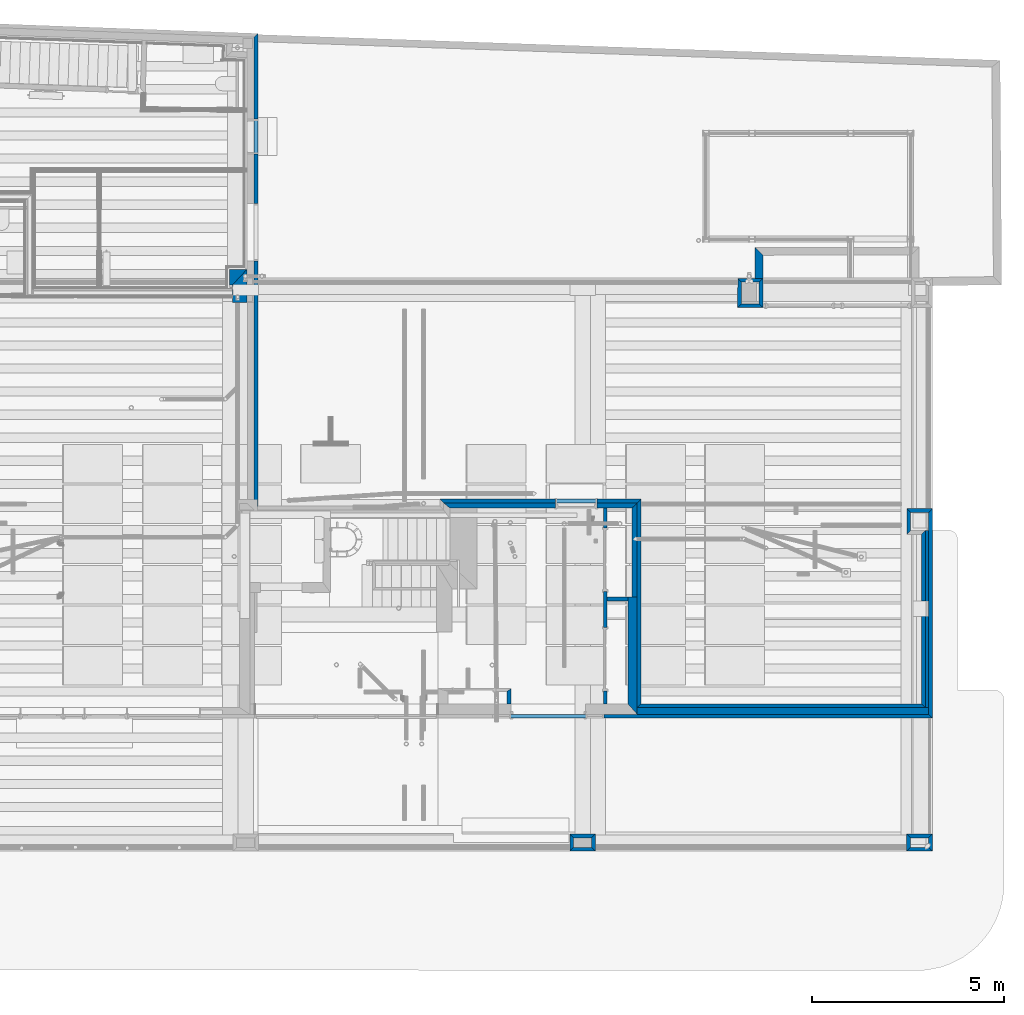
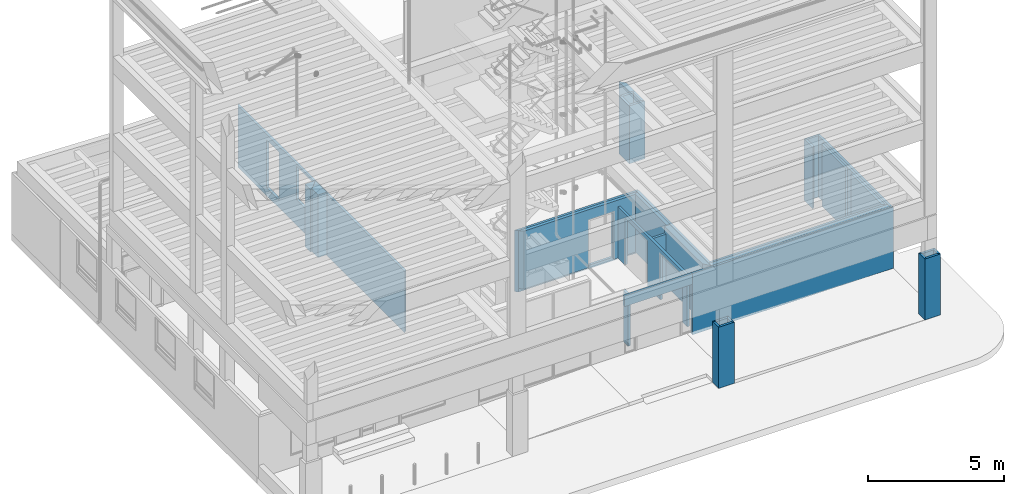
# One storey, part 8 of 106: 34 walls, 6 openings.
"""IFC2X3 building model written with IfcOpenShell, lengths in metres."""

from ifc_helpers import new_model, entity, si_unit, converted_unit, derived_unit, money_unit, direction, frame, frame_2d, origin_with_axes, place, context, subcontext, project, spatial, polyline, rectangle, outline, extrude, faceted_brep, material, layer, layer_set, layer_usage, type_object, element, save


model = new_model("IFC2X3")

# Units and contexts
model_context = context("Model", 3, precision=1e-05, world=origin_with_axes(), true_north=direction((0.0, 1.0)))
body_context = subcontext(model_context, "Body", "Model", "MODEL_VIEW", scale=1.0)
ifc_project = project(units=[si_unit("LENGTHUNIT", "METRE"), si_unit("AREAUNIT", "SQUARE_METRE"), si_unit("VOLUMEUNIT", "CUBIC_METRE"), si_unit("ABSORBEDDOSEUNIT", "GRAY"), si_unit("AMOUNTOFSUBSTANCEUNIT", "MOLE"), si_unit("DOSEEQUIVALENTUNIT", "SIEVERT"), si_unit("ELECTRICCAPACITANCEUNIT", "FARAD"), si_unit("ELECTRICCHARGEUNIT", "COULOMB"), si_unit("ELECTRICCONDUCTANCEUNIT", "SIEMENS"), si_unit("ELECTRICCURRENTUNIT", "AMPERE"), si_unit("ELECTRICRESISTANCEUNIT", "OHM"), si_unit("ELECTRICVOLTAGEUNIT", "VOLT"), si_unit("ENERGYUNIT", "JOULE"), si_unit("FORCEUNIT", "NEWTON"), si_unit("FREQUENCYUNIT", "HERTZ"), si_unit("ILLUMINANCEUNIT", "LUX"), si_unit("INDUCTANCEUNIT", "HENRY"), si_unit("LUMINOUSFLUXUNIT", "LUMEN"), si_unit("LUMINOUSINTENSITYUNIT", "CANDELA"), si_unit("MAGNETICFLUXDENSITYUNIT", "TESLA"), si_unit("MAGNETICFLUXUNIT", "WEBER"), si_unit("MASSUNIT", "GRAM"), converted_unit("PLANEANGLEUNIT", "degree", entity("IfcReal", 0.0174532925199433), si_unit("PLANEANGLEUNIT", "RADIAN"), dimensions=[0, 0, 0, 0, 0, 0, 0]), si_unit("POWERUNIT", "WATT"), si_unit("PRESSUREUNIT", "PASCAL"), si_unit("RADIOACTIVITYUNIT", "BECQUEREL"), si_unit("SOLIDANGLEUNIT", "STERADIAN"), si_unit("THERMODYNAMICTEMPERATUREUNIT", "KELVIN"), si_unit("TIMEUNIT", "SECOND"), derived_unit("ACCELERATIONUNIT", [(si_unit("LENGTHUNIT", "METRE"), 1), (si_unit("TIMEUNIT", "SECOND"), -2)]), derived_unit("ANGULARVELOCITYUNIT", [(converted_unit("PLANEANGLEUNIT", "degree", entity("IfcReal", 0.0174532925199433), si_unit("PLANEANGLEUNIT", "RADIAN"), dimensions=[0, 0, 0, 0, 0, 0, 0]), 1), (si_unit("TIMEUNIT", "SECOND"), -1)]), derived_unit("CURVATUREUNIT", [(converted_unit("PLANEANGLEUNIT", "degree", entity("IfcReal", 0.0174532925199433), si_unit("PLANEANGLEUNIT", "RADIAN"), dimensions=[0, 0, 0, 0, 0, 0, 0]), 1), (si_unit("LENGTHUNIT", "METRE"), -1)]), derived_unit("DYNAMICVISCOSITYUNIT", [(si_unit("PRESSUREUNIT", "PASCAL"), 1), (si_unit("TIMEUNIT", "SECOND"), 1)]), derived_unit("HEATFLUXDENSITYUNIT", [(si_unit("POWERUNIT", "WATT"), 1), (si_unit("LENGTHUNIT", "METRE"), -2)]), derived_unit("HEATINGVALUEUNIT", [(si_unit("ENERGYUNIT", "JOULE"), 1), (si_unit("MASSUNIT", "GRAM"), -1)]), derived_unit("INTEGERCOUNTRATEUNIT", [(si_unit("TIMEUNIT", "SECOND"), -1)]), derived_unit("IONCONCENTRATIONUNIT", [(si_unit("MASSUNIT", "GRAM"), 1), (si_unit("VOLUMEUNIT", "CUBIC_METRE"), -1)]), derived_unit("ISOTHERMALMOISTURECAPACITYUNIT", [(si_unit("VOLUMEUNIT", "CUBIC_METRE"), 1), (si_unit("MASSUNIT", "GRAM"), -1)]), derived_unit("KINEMATICVISCOSITYUNIT", [(si_unit("AREAUNIT", "SQUARE_METRE"), 1), (si_unit("TIMEUNIT", "SECOND"), -1)]), derived_unit("LINEARFORCEUNIT", [(si_unit("FORCEUNIT", "NEWTON"), 1), (si_unit("LENGTHUNIT", "METRE"), -1)]), derived_unit("LINEARMOMENTUNIT", [(si_unit("FORCEUNIT", "NEWTON"), 1), (si_unit("LENGTHUNIT", "METRE"), -1)]), derived_unit("LINEARSTIFFNESSUNIT", [(si_unit("FORCEUNIT", "NEWTON"), 1), (si_unit("LENGTHUNIT", "METRE"), -1)]), derived_unit("LINEARVELOCITYUNIT", [(si_unit("LENGTHUNIT", "METRE"), 1), (si_unit("TIMEUNIT", "SECOND"), -1)]), derived_unit("LUMINOUSINTENSITYDISTRIBUTIONUNIT", [(si_unit("LUMINOUSINTENSITYUNIT", "CANDELA"), 1), (si_unit("LUMINOUSFLUXUNIT", "LUMEN"), -1)]), derived_unit("MASSDENSITYUNIT", [(si_unit("MASSUNIT", "GRAM"), 1), (si_unit("VOLUMEUNIT", "CUBIC_METRE"), -1)]), derived_unit("MASSFLOWRATEUNIT", [(si_unit("MASSUNIT", "GRAM"), 1), (si_unit("TIMEUNIT", "SECOND"), -1)]), derived_unit("MASSPERLENGTHUNIT", [(si_unit("MASSUNIT", "GRAM"), 1), (si_unit("LENGTHUNIT", "METRE"), -1)]), derived_unit("MODULUSOFELASTICITYUNIT", [(si_unit("FORCEUNIT", "NEWTON"), 1), (si_unit("AREAUNIT", "SQUARE_METRE"), -1)]), derived_unit("MODULUSOFLINEARSUBGRADEREACTIONUNIT", [(si_unit("FORCEUNIT", "NEWTON"), 1), (si_unit("LENGTHUNIT", "METRE"), -2)]), derived_unit("MODULUSOFROTATIONALSUBGRADEREACTIONUNIT", [(si_unit("FORCEUNIT", "NEWTON"), 1), (si_unit("LENGTHUNIT", "METRE"), 1)]), derived_unit("MODULUSOFSUBGRADEREACTIONUNIT", [(si_unit("FORCEUNIT", "NEWTON"), 1), (si_unit("VOLUMEUNIT", "CUBIC_METRE"), -1)]), derived_unit("MOISTUREDIFFUSIVITYUNIT", [(si_unit("VOLUMEUNIT", "CUBIC_METRE"), 1), (si_unit("TIMEUNIT", "SECOND"), -1)]), derived_unit("MOLECULARWEIGHTUNIT", [(si_unit("MASSUNIT", "GRAM"), 1), (si_unit("AMOUNTOFSUBSTANCEUNIT", "MOLE"), -1)]), derived_unit("PLANARFORCEUNIT", [(si_unit("FORCEUNIT", "NEWTON"), 1), (si_unit("LENGTHUNIT", "METRE"), -2)]), derived_unit("ROTATIONALFREQUENCYUNIT", [(si_unit("TIMEUNIT", "SECOND"), -1)]), derived_unit("ROTATIONALMASSUNIT", [(si_unit("MASSUNIT", "GRAM"), 1), (si_unit("LENGTHUNIT", "METRE"), 2)]), derived_unit("ROTATIONALSTIFFNESSUNIT", [(si_unit("FORCEUNIT", "NEWTON"), 1), (si_unit("LENGTHUNIT", "METRE"), 1), (converted_unit("PLANEANGLEUNIT", "degree", entity("IfcReal", 0.0174532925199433), si_unit("PLANEANGLEUNIT", "RADIAN"), dimensions=[0, 0, 0, 0, 0, 0, 0]), -1)]), derived_unit("SECTIONAREAINTEGRALUNIT", [(si_unit("LENGTHUNIT", "METRE"), 5)]), derived_unit("SECTIONMODULUSUNIT", [(si_unit("LENGTHUNIT", "METRE"), 3)]), derived_unit("SHEARMODULUSUNIT", [(si_unit("FORCEUNIT", "NEWTON"), 1), (si_unit("AREAUNIT", "SQUARE_METRE"), -1)]), derived_unit("SOUNDPOWERUNIT", [(si_unit("ENERGYUNIT", "JOULE"), 1), (si_unit("TIMEUNIT", "SECOND"), -1)]), derived_unit("SPECIFICHEATCAPACITYUNIT", [(si_unit("FORCEUNIT", "NEWTON"), 1), (si_unit("MASSUNIT", "GRAM"), -1), (si_unit("THERMODYNAMICTEMPERATUREUNIT", "KELVIN"), -1)]), derived_unit("TEMPERATUREGRADIENTUNIT", [(si_unit("THERMODYNAMICTEMPERATUREUNIT", "KELVIN"), 1), (si_unit("LENGTHUNIT", "METRE"), -1)]), derived_unit("THERMALADMITTANCEUNIT", [(si_unit("POWERUNIT", "WATT"), 1), (si_unit("AREAUNIT", "SQUARE_METRE"), -1), (si_unit("THERMODYNAMICTEMPERATUREUNIT", "KELVIN"), -1)]), derived_unit("THERMALCONDUCTANCEUNIT", [(si_unit("POWERUNIT", "WATT"), 1), (si_unit("LENGTHUNIT", "METRE"), -1), (si_unit("THERMODYNAMICTEMPERATUREUNIT", "KELVIN"), -1)]), derived_unit("THERMALEXPANSIONCOEFFICIENTUNIT", [(si_unit("THERMODYNAMICTEMPERATUREUNIT", "KELVIN"), -1)]), derived_unit("THERMALRESISTANCEUNIT", [(si_unit("AREAUNIT", "SQUARE_METRE"), 1), (si_unit("POWERUNIT", "WATT"), -1)]), derived_unit("THERMALTRANSMITTANCEUNIT", [(si_unit("POWERUNIT", "WATT"), 1), (si_unit("AREAUNIT", "SQUARE_METRE"), -1), (si_unit("THERMODYNAMICTEMPERATUREUNIT", "KELVIN"), -1)]), derived_unit("TORQUEUNIT", [(si_unit("FORCEUNIT", "NEWTON"), 1), (si_unit("LENGTHUNIT", "METRE"), 1)]), derived_unit("VAPORPERMEABILITYUNIT", [(si_unit("MASSUNIT", "GRAM"), 1), (si_unit("TIMEUNIT", "SECOND"), -1)]), derived_unit("VOLUMETRICFLOWRATEUNIT", [(si_unit("VOLUMEUNIT", "CUBIC_METRE"), 1), (si_unit("TIMEUNIT", "SECOND"), -1)]), derived_unit("WARPINGCONSTANTUNIT", [(si_unit("LENGTHUNIT", "METRE"), 6)]), derived_unit("WARPINGMOMENTUNIT", [(si_unit("FORCEUNIT", "NEWTON"), 1), (si_unit("LENGTHUNIT", "METRE"), 2)]), money_unit("GBP")], contexts=[model_context])

# Site, building, storey
site_placement = place(None, origin_with_axes())
site = spatial("IfcSite", under=ifc_project, at=site_placement, Name="Site", CompositionType="ELEMENT")
building_placement = place(site_placement, origin_with_axes())
building = spatial("IfcBuilding", under=site, at=building_placement, Name="Building01", CompositionType="ELEMENT")
storey_placement = place(building_placement, origin_with_axes())
storey = spatial("IfcBuildingStorey", under=building, at=storey_placement, Name="GF", CompositionType="ELEMENT", Elevation=0.0)

# Walls
ifc_material_1 = material(Name="A_BSUK_WallsExternal_Brick")
ifc_layer_1 = layer(ifc_material_1, 0.1, ventilated=False)
ifc_layer_set_1 = layer_set([ifc_layer_1])
ifc_layer_usage_1 = layer_usage(ifc_layer_set_1, "AXIS2", "POSITIVE", 0.0)
wall_type_1 = type_object("IfcWallType", Name="A-Walls-ExternalBrick", PredefinedType="NOTDEFINED")
wall_1_placement = place(storey_placement, frame((17.55, 0.449009, -0.145), z_axis=(0.0, 0.0, 1.0), x_axis=(0.0, -1.0, 0.0)))
element("IfcWallStandardCase", 1, at=wall_1_placement, inside=storey, type_object=wall_type_1, material=ifc_layer_usage_1, Name="A-Walls-ExternalBrick", ObjectType="A-Walls-ExternalBrick", context=body_context, shape_type="SweptSolid", body=[
    extrude(outline(polyline([(0.349667, 0.1), (0.1, 0.1), (0.0, 0.0), (0.449667, 0.0), (0.349667, 0.1)])), origin_with_axes(), (0.0, 0.0, 1.0), 2.745),
])
wall_2_placement = place(storey_placement, frame((17.55, -0.000659, -0.145), z_axis=(0.0, 0.0, 1.0), x_axis=(1.0, 0.0, 0.0)))
element("IfcWallStandardCase", 2, at=wall_2_placement, inside=storey, type_object=wall_type_1, material=ifc_layer_usage_1, Name="A-Walls-ExternalBrick", ObjectType="A-Walls-ExternalBrick", context=body_context, shape_type="SweptSolid", body=[
    extrude(outline(polyline([(0.57, 0.1), (0.1, 0.1), (0.0, 0.0), (0.67, 0.0), (0.57, 0.1)])), origin_with_axes(), (0.0, 0.0, 1.0), 2.745),
])
wall_3_placement = place(storey_placement, frame((18.22, -0.000659, -0.145), z_axis=(0.0, 0.0, 1.0), x_axis=(0.0, 1.0, 0.0)))
element("IfcWallStandardCase", 3, at=wall_3_placement, inside=storey, type_object=wall_type_1, material=ifc_layer_usage_1, Name="A-Walls-ExternalBrick", ObjectType="A-Walls-ExternalBrick", context=body_context, shape_type="SweptSolid", body=[
    extrude(outline(polyline([(0.349667, 0.1), (0.1, 0.1), (0.0, 0.0), (0.449667, 0.0), (0.349667, 0.1)])), origin_with_axes(), (0.0, 0.0, 1.0), 2.745),
])
wall_4_placement = place(storey_placement, frame((18.22, 0.449009, -0.145), z_axis=(0.0, 0.0, 1.0), x_axis=(-1.0, 0.0, 0.0)))
element("IfcWallStandardCase", 4, at=wall_4_placement, inside=storey, type_object=wall_type_1, material=ifc_layer_usage_1, Name="A-Walls-ExternalBrick", ObjectType="A-Walls-ExternalBrick", context=body_context, shape_type="SweptSolid", body=[
    extrude(outline(polyline([(0.57, 0.1), (0.1, 0.1), (0.0, 0.0), (0.67, 0.0), (0.57, 0.1)])), origin_with_axes(), (0.0, 0.0, 1.0), 2.745),
])
wall_5_placement = place(storey_placement, frame((26.31, -0.000988, -0.145), z_axis=(0.0, 0.0, 1.0), x_axis=(1.0, 0.0, 0.0)))
element("IfcWallStandardCase", 5, at=wall_5_placement, inside=storey, type_object=wall_type_1, material=ifc_layer_usage_1, Name="A-Walls-ExternalBrick", ObjectType="A-Walls-ExternalBrick", context=body_context, shape_type="SweptSolid", body=[
    extrude(outline(polyline([(0.571155, 0.1), (0.1, 0.1), (0.0, 0.0), (0.671155, 0.0), (0.571155, 0.1)])), origin_with_axes(), (0.0, 0.0, 1.0), 2.745),
])
wall_6_placement = place(storey_placement, frame((26.981155, -0.000988, -0.145), z_axis=(0.0, 0.0, 1.0), x_axis=(0.0, 1.0, 0.0)))
element("IfcWallStandardCase", 6, at=wall_6_placement, inside=storey, type_object=wall_type_1, material=ifc_layer_usage_1, Name="A-Walls-ExternalBrick", ObjectType="A-Walls-ExternalBrick", context=body_context, shape_type="SweptSolid", body=[
    extrude(outline(polyline([(0.349668, 0.1), (0.1, 0.1), (0.0, 0.0), (0.449668, 0.0), (0.349668, 0.1)])), origin_with_axes(), (0.0, 0.0, 1.0), 2.745),
])
wall_7_placement = place(storey_placement, frame((26.981155, 0.44868, -0.145), z_axis=(0.0, 0.0, 1.0), x_axis=(-1.0, 0.0, 0.0)))
element("IfcWallStandardCase", 7, at=wall_7_placement, inside=storey, type_object=wall_type_1, material=ifc_layer_usage_1, Name="A-Walls-ExternalBrick", ObjectType="A-Walls-ExternalBrick", context=body_context, shape_type="SweptSolid", body=[
    extrude(outline(polyline([(0.571155, 0.1), (0.1, 0.1), (0.0, 0.0), (0.671155, 0.0), (0.571155, 0.1)])), origin_with_axes(), (0.0, 0.0, 1.0), 2.745),
])
wall_8_placement = place(storey_placement, frame((26.31, 0.44868, -0.145), z_axis=(0.0, 0.0, 1.0), x_axis=(0.0, -1.0, 0.0)))
element("IfcWallStandardCase", 8, at=wall_8_placement, inside=storey, type_object=wall_type_1, material=ifc_layer_usage_1, Name="A-Walls-ExternalBrick", ObjectType="A-Walls-ExternalBrick", context=body_context, shape_type="SweptSolid", body=[
    extrude(outline(polyline([(0.349668, 0.1), (0.1, 0.1), (0.0, 0.0), (0.449668, 0.0), (0.349668, 0.1)])), origin_with_axes(), (0.0, 0.0, 1.0), 2.745),
])
wall_9_placement = place(storey_placement, frame((26.981285, 3.458503, -0.16), z_axis=(0.0, 0.0, 1.0), x_axis=(0.0, 1.0, 0.0)))
element("IfcWallStandardCase", 9, at=wall_9_placement, inside=storey, type_object=wall_type_1, material=ifc_layer_usage_1, Name="A-Walls-ExternalBrick", ObjectType="A-Walls-ExternalBrick", context=body_context, shape_type="SweptSolid", body=[
    extrude(outline(polyline([(5.351028, 0.1), (0.100004, 0.1), (0.0, 0.0), (5.451028, 0.0), (5.351028, 0.1)])), origin_with_axes(), (0.0, 0.0, 1.0), 2.76),
])
wall_10_placement = place(storey_placement, frame((26.981285, 8.909531, -0.16), z_axis=(0.0, 0.0, 1.0), x_axis=(-1.0, 0.0, 0.0)))
element("IfcWallStandardCase", 10, at=wall_10_placement, inside=storey, type_object=wall_type_1, material=ifc_layer_usage_1, Name="A-Walls-ExternalBrick", ObjectType="A-Walls-ExternalBrick", context=body_context, shape_type="SweptSolid", body=[
    extrude(outline(polyline([(0.567106, 0.1), (0.1, 0.1), (0.0, 0.0), (0.667106, 0.0), (0.567106, 0.1)])), origin_with_axes(), (0.0, 0.0, 1.0), 2.76),
])
wall_11_placement = place(storey_placement, frame((26.314179, 8.909531, -0.16), z_axis=(0.0, 0.0, 1.0), x_axis=(0.0, -1.0, 0.0)))
element("IfcWallStandardCase", 11, at=wall_11_placement, inside=storey, type_object=wall_type_1, material=ifc_layer_usage_1, Name="A-Walls-ExternalBrick", ObjectType="A-Walls-ExternalBrick", context=body_context, shape_type="SweptSolid", body=[
    extrude(outline(polyline([(0.571773, 0.1), (0.1, 0.1), (0.0, 0.0), (0.671773, 0.0), (0.571773, 0.1)])), origin_with_axes(), (0.0, 0.0, 1.0), 2.76),
])

# Wall, openings
wall_12_placement = place(storey_placement, frame((9.443038, 8.971523, -0.16), z_axis=(0.0, 0.0, 1.0), x_axis=(3.756e-05, 1.0, 0.0)))
wall_12 = element("IfcWallStandardCase", 12, at=wall_12_placement, inside=storey, type_object=wall_type_1, material=ifc_layer_usage_1, Name="A-Walls-ExternalBrick", ObjectType="A-Walls-ExternalBrick", context=body_context, shape_type="SweptSolid", body=[
    extrude(outline(polyline([(12.194522, 0.1), (-0.1, 0.1), (0.0, 0.0), (12.290885, 0.0), (12.194522, 0.1)])), origin_with_axes(), (0.0, 0.0, 1.0), 2.76),
])
opening_1_placement = place(wall_12_placement, frame((6.373286, 0.0, 1.158), z_axis=(0.0, 0.0, 1.0), x_axis=(1.0, 0.0, 0.0)))
element("IfcOpeningElement", 13, at=opening_1_placement, cuts=wall_12, Name="Opening", ObjectType="Opening", context=body_context, shape_type="Brep", body=[
    faceted_brep([(0.0, 0.1, 1.5), (1.5, 0.1, 1.5), (1.5, 0.1, 0.0), (0.0, 0.1, 0.0), (1.500004, 0.0, 1.5), (4e-06, 0.0, 1.5), (1.500004, 0.0, 0.0), (4e-06, 0.0, 0.0)], [[[0, 1, 2, 3]], [[4, 1, 0, 5]], [[6, 2, 1, 4]], [[5, 0, 3, 7]], [[4, 5, 7, 6]], [[7, 3, 2, 6]]]),
])
opening_2_placement = place(wall_12_placement, frame((9.152581, 0.0, 0.358), z_axis=(0.0, 0.0, 1.0), x_axis=(1.0, 0.0, 0.0)))
element("IfcOpeningElement", 14, at=opening_2_placement, cuts=wall_12, Name="Opening", ObjectType="Opening", context=body_context, shape_type="Brep", body=[
    faceted_brep([(0.0, 0.1, 2.142), (0.909, 0.1, 2.142), (0.909, 0.1, 0.0), (0.0, 0.1, 0.0), (0.909004, 0.0, 2.142), (4e-06, 0.0, 2.142), (0.909004, 0.0, 0.0), (4e-06, 0.0, 0.0)], [[[0, 1, 2, 3]], [[4, 1, 0, 5]], [[6, 2, 1, 4]], [[7, 3, 2, 6]], [[5, 0, 3, 7]], [[4, 5, 7, 6]]]),
])

# Walls
wall_13_placement = place(storey_placement, frame((22.571797, 14.897172, -0.16), z_axis=(0.0, 0.0, 1.0), x_axis=(-1.0, 0.0, 0.0)))
element("IfcWallStandardCase", 15, at=wall_13_placement, inside=storey, type_object=wall_type_1, material=ifc_layer_usage_1, Name="A-Walls-ExternalBrick", ObjectType="A-Walls-ExternalBrick", context=body_context, shape_type="SweptSolid", body=[
    extrude(outline(polyline([(0.553641, 0.1), (0.0993, 0.1), (0.0, 0.0), (0.653638, 0.0), (0.553641, 0.1)])), origin_with_axes(), (0.0, 0.0, 1.0), 2.6),
])
wall_14_placement = place(storey_placement, frame((21.91816, 14.897172, -0.16), z_axis=(0.0, 0.0, 1.0), x_axis=(-3.756e-05, -1.0, 0.0)))
element("IfcWallStandardCase", 16, at=wall_14_placement, inside=storey, type_object=wall_type_1, material=ifc_layer_usage_1, Name="A-Walls-ExternalBrick", ObjectType="A-Walls-ExternalBrick", context=body_context, shape_type="SweptSolid", body=[
    extrude(outline(polyline([(0.662872, 0.1), (0.099996, 0.1), (0.0, 0.0), (0.762876, 0.0), (0.662872, 0.1)])), origin_with_axes(), (0.0, 0.0, 1.0), 2.6),
])
wall_15_placement = place(storey_placement, frame((21.918131, 14.134296, -0.16), z_axis=(0.0, 0.0, 1.0), x_axis=(1.0, 0.0, 0.0)))
element("IfcWallStandardCase", 17, at=wall_15_placement, inside=storey, type_object=wall_type_1, material=ifc_layer_usage_1, Name="A-Walls-ExternalBrick", ObjectType="A-Walls-ExternalBrick", context=body_context, shape_type="SweptSolid", body=[
    extrude(outline(polyline([(0.558318, 0.1), (0.100004, 0.1), (0.0, 0.0), (0.659023, 0.0), (0.558318, 0.1)])), origin_with_axes(), (0.0, 0.0, 1.0), 2.6),
])
wall_16_placement = place(storey_placement, frame((22.577154, 14.134296, -0.16), z_axis=(0.0, 0.0, 1.0), x_axis=(-0.00702115, 0.99997535, 0.0)))
element("IfcWallStandardCase", 18, at=wall_16_placement, inside=storey, type_object=wall_type_1, material=ifc_layer_usage_1, Name="A-Walls-ExternalBrick", ObjectType="A-Walls-ExternalBrick", context=body_context, shape_type="SweptSolid", body=[
    extrude(outline(polyline([(0.663594, 0.1), (0.100705, 0.1), (0.0, 0.0), (0.762895, 0.0), (0.663594, 0.1)])), origin_with_axes(), (0.0, 0.0, 1.0), 2.6),
])
ifc_layer_2 = layer(ifc_material_1, 0.2, ventilated=False)
ifc_layer_set_2 = layer_set([ifc_layer_2])
ifc_layer_usage_2 = layer_usage(ifc_layer_set_2, "AXIS2", "POSITIVE", 0.0)
wall_17_placement = place(storey_placement, frame((22.571797, 14.897172, -0.16), z_axis=(0.0, 0.0, 1.0), x_axis=(0.0, 1.0, 0.0)))
element("IfcWallStandardCase", 19, at=wall_17_placement, inside=storey, type_object=wall_type_1, material=ifc_layer_usage_2, Name="A-Walls-ExternalBrick", ObjectType="A-Walls-ExternalBrick", context=body_context, shape_type="SweptSolid", body=[
    extrude(outline(polyline([(0.797851, 0.2), (0.0, 0.2), (0.0, 0.0), (0.598323, 0.0), (0.797851, 0.2)])), origin_with_axes(), (0.0, 0.0, 1.0), 2.6),
])
wall_18_placement = place(storey_placement, frame((18.441275, 3.458824, -0.145), z_axis=(0.0, 0.0, 1.0), x_axis=(1.0, -3.756e-05, 0.0)))
element("IfcWallStandardCase", 20, at=wall_18_placement, inside=storey, type_object=wall_type_1, material=ifc_layer_usage_1, Name="A-Walls-ExternalBrick", ObjectType="A-Walls-ExternalBrick", context=body_context, shape_type="SweptSolid", body=[
    extrude(outline(polyline([(8.440006, 0.1), (0.0, 0.1), (0.0, 0.0), (8.54001, 0.0), (8.440006, 0.1)])), origin_with_axes(), (0.0, 0.0, 1.0), 2.745),
])
wall_19_placement = place(storey_placement, frame((15.545166, 3.458932, 2.127), z_axis=(0.0, 0.0, 1.0), x_axis=(1.0, -3.756e-05, 0.0)))
element("IfcWallStandardCase", 21, at=wall_19_placement, inside=storey, type_object=wall_type_1, material=ifc_layer_usage_1, Name="A-Walls-ExternalBrick", ObjectType="A-Walls-ExternalBrick", context=body_context, shape_type="SweptSolid", body=[
    extrude(rectangle(XDim=2.896109, YDim=0.1, at=frame_2d((1.448055, 0.05), x_axis=(-1.0, 0.0))), origin_with_axes(), (0.0, 0.0, 1.0), 0.473),
])
ifc_material_2 = material(Name="A_BSUK_WallsExternal_Block")
ifc_layer_3 = layer(ifc_material_2, 0.1, ventilated=False)
ifc_layer_set_3 = layer_set([ifc_layer_3])
ifc_layer_usage_3 = layer_usage(ifc_layer_set_3, "AXIS2", "POSITIVE", 0.0)
wall_type_2 = type_object("IfcWallType", Name="A-Walls-ExternalBlock", PredefinedType="NOTDEFINED")
wall_20_placement = place(storey_placement, frame((26.695229, 8.237758, -0.16), z_axis=(0.0, 0.0, 1.0), x_axis=(-3.756e-05, -1.0, 0.0)))
element("IfcWallStandardCase", 22, at=wall_20_placement, inside=storey, type_object=wall_type_2, material=ifc_layer_usage_3, Name="A-Walls-ExternalBlock", ObjectType="A-Walls-ExternalBlock", context=body_context, shape_type="SweptSolid", body=[
    extrude(outline(polyline([(1.726014, 0.1), (-0.100004, 0.1), (0.0, 0.0), (1.726014, 0.0), (1.726014, 0.1)])), origin_with_axes(), (0.0, 0.0, 1.0), 2.76),
])
wall_21_placement = place(storey_placement, frame((26.695149, 6.112111, -0.16), z_axis=(0.0, 0.0, 1.0), x_axis=(-3.756e-05, -1.0, 0.0)))
element("IfcWallStandardCase", 23, at=wall_21_placement, inside=storey, type_object=wall_type_2, material=ifc_layer_usage_3, Name="A-Walls-ExternalBlock", ObjectType="A-Walls-ExternalBlock", context=body_context, shape_type="SweptSolid", body=[
    extrude(outline(polyline([(2.378533, 0.1), (0.0, 0.1), (0.0, 0.0), (2.278533, 0.0), (2.378533, 0.1)])), origin_with_axes(), (0.0, 0.0, 1.0), 2.76),
])
wall_22_placement = place(storey_placement, frame((26.695064, 3.833578, -0.16), z_axis=(0.0, 0.0, 1.0), x_axis=(-1.0, 3.756e-05, 0.0)))
element("IfcWallStandardCase", 24, at=wall_22_placement, inside=storey, type_object=wall_type_2, material=ifc_layer_usage_3, Name="A-Walls-ExternalBlock", ObjectType="A-Walls-ExternalBlock", context=body_context, shape_type="SweptSolid", body=[
    extrude(outline(polyline([(7.392288, 0.1), (-0.1, 0.1), (0.0, 0.0), (7.292288, 0.0), (7.392288, 0.1)])), origin_with_axes(), (0.0, 0.0, 1.0), 2.76),
])
wall_23_placement = place(storey_placement, frame((19.402776, 3.833852, -0.16), z_axis=(0.0, 0.0, 1.0), x_axis=(3.756e-05, 1.0, 0.0)))
element("IfcWallStandardCase", 25, at=wall_23_placement, inside=storey, type_object=wall_type_2, material=ifc_layer_usage_3, Name="A-Walls-ExternalBlock", ObjectType="A-Walls-ExternalBlock", context=body_context, shape_type="SweptSolid", body=[
    extrude(outline(polyline([(5.219002, 0.1), (-0.1, 0.1), (0.0, 0.0), (5.319002, 0.0), (5.219002, 0.1)])), origin_with_axes(), (0.0, 0.0, 1.0), 2.76),
])

# Wall, opening
wall_24_placement = place(storey_placement, frame((19.402975, 9.152854, -0.16), z_axis=(0.0, 0.0, 1.0), x_axis=(-1.0, 3.756e-05, 0.0)))
wall_24 = element("IfcWallStandardCase", 26, at=wall_24_placement, inside=storey, type_object=wall_type_2, material=ifc_layer_usage_3, Name="A-Walls-ExternalBlock", ObjectType="A-Walls-ExternalBlock", context=body_context, shape_type="SweptSolid", body=[
    extrude(outline(polyline([(5.130622, 0.1), (0.1, 0.1), (0.0, 0.0), (5.230622, 0.0), (5.130622, 0.1)])), origin_with_axes(), (0.0, 0.0, 1.0), 2.76),
])
opening_3_placement = place(wall_24_placement, frame((1.142406, 0.0, 0.16), z_axis=(0.0, 0.0, 1.0), x_axis=(1.0, 0.0, 0.0)))
element("IfcOpeningElement", 27, at=opening_3_placement, cuts=wall_24, Name="Opening", ObjectType="Opening", context=body_context, shape_type="Brep", body=[
    faceted_brep([(0.0, 0.1, 2.142), (1.084, 0.1, 2.142), (1.084, 0.1, 0.0), (0.0, 0.1, 0.0), (1.084004, 0.0, 2.142), (4e-06, 0.0, 2.142), (1.084004, 0.0, 0.0), (4e-06, 0.0, 0.0)], [[[0, 1, 2, 3]], [[4, 1, 0, 5]], [[6, 2, 1, 4]], [[7, 3, 2, 6]], [[5, 0, 3, 7]], [[4, 5, 7, 6]]]),
])

ifc_layer_4 = layer(ifc_material_2, 0.131, ventilated=False)
ifc_layer_set_4 = layer_set([ifc_layer_4])
ifc_layer_usage_4 = layer_usage(ifc_layer_set_4, "AXIS2", "POSITIVE", 0.0)
wall_25_placement = place(storey_placement, frame((14.43135, 8.922145, 0.0), z_axis=(0.0, 0.0, 1.0), x_axis=(1.0, 0.0, 0.0)))
wall_25 = element("IfcWallStandardCase", 28, at=wall_25_placement, inside=storey, type_object=wall_type_2, material=ifc_layer_usage_4, Name="A-Walls-ExternalBlock", ObjectType="A-Walls-ExternalBlock", context=body_context, shape_type="SweptSolid", body=[
    extrude(outline(polyline([(4.871617, 0.131), (-0.159, 0.131), (0.0, 0.0), (4.733617, 0.0), (4.871617, 0.131)])), origin_with_axes(), (0.0, 0.0, 1.0), 2.6),
])
opening_4_placement = place(wall_25_placement, frame((2.745216, 0.0, 0.0), z_axis=(0.0, 0.0, 1.0), x_axis=(1.0, 0.0, 0.0)))
element("IfcOpeningElement", 29, at=opening_4_placement, cuts=wall_25, Name="Opening", ObjectType="Opening", context=body_context, shape_type="SweptSolid", body=[
    extrude(rectangle(XDim=2.142, YDim=1.084, at=frame_2d((-0.542, 1.071), x_axis=(0.0, -1.0))), frame((0.0, 0.0, 0.0), z_axis=(0.0, 1.0, 0.0), x_axis=(-1.0, 0.0, 0.0)), (0.0, 0.0, 1.0), 0.131),
])

# Walls
ifc_layer_5 = layer(ifc_material_2, 0.138, ventilated=False)
ifc_layer_set_5 = layer_set([ifc_layer_5])
ifc_layer_usage_5 = layer_usage(ifc_layer_set_5, "AXIS2", "POSITIVE", 0.0)
wall_26_placement = place(storey_placement, frame((19.302967, 6.610938, 0.0), z_axis=(0.0, 0.0, 1.0), x_axis=(0.0, 1.0, 0.0)))
element("IfcWallStandardCase", 30, at=wall_26_placement, inside=storey, type_object=wall_type_2, material=ifc_layer_usage_5, Name="A-Walls-ExternalBlock", ObjectType="A-Walls-ExternalBlock", context=body_context, shape_type="SweptSolid", body=[
    extrude(outline(polyline([(2.311208, 0.138), (0.0, 0.138), (0.0, 0.0), (2.442208, 0.0), (2.311208, 0.138)])), origin_with_axes(), (0.0, 0.0, 1.0), 2.6),
])
ifc_layer_6 = layer(ifc_material_2, 0.233, ventilated=False)
ifc_layer_set_6 = layer_set([ifc_layer_6])
ifc_layer_usage_6 = layer_usage(ifc_layer_set_6, "AXIS2", "POSITIVE", 0.0)
wall_27_placement = place(storey_placement, frame((19.302772, 3.558962, 0.0), z_axis=(0.0, 0.0, 1.0), x_axis=(0.0, 1.0, 0.0)))
element("IfcWallStandardCase", 31, at=wall_27_placement, inside=storey, type_object=wall_type_2, material=ifc_layer_usage_6, Name="A-Walls-ExternalBlock", ObjectType="A-Walls-ExternalBlock", context=body_context, shape_type="SweptSolid", body=[
    extrude(outline(polyline([(0.265, 0.233), (0.0, 0.0), (3.051976, 0.0), (3.051976, 0.233), (0.265, 0.233)])), origin_with_axes(), (0.0, 0.0, 1.0), 2.6),
])
ifc_layer_7 = layer(ifc_material_2, 0.379, ventilated=False)
ifc_layer_set_7 = layer_set([ifc_layer_7])
ifc_layer_usage_7 = layer_usage(ifc_layer_set_7, "AXIS2", "POSITIVE", 0.0)
wall_28_placement = place(storey_placement, frame((9.154265, 14.271539, 0.148), z_axis=(0.0, 0.0, 1.0), x_axis=(0.0, 1.0, 0.0)))
element("IfcWallStandardCase", 32, at=wall_28_placement, inside=storey, type_object=wall_type_2, material=ifc_layer_usage_7, Name="A-Walls-ExternalBlock", ObjectType="A-Walls-ExternalBlock", context=body_context, shape_type="SweptSolid", body=[
    extrude(outline(polyline([(0.450353, 0.379), (0.0, 0.379), (0.0, 0.0), (0.856353, 0.0), (0.450353, 0.379)])), origin_with_axes(), (0.0, 0.0, 1.0), 2.812),
])
ifc_layer_8 = layer(ifc_material_2, 0.406, ventilated=False)
ifc_layer_set_8 = layer_set([ifc_layer_8])
ifc_layer_usage_8 = layer_usage(ifc_layer_set_8, "AXIS2", "POSITIVE", 0.0)
wall_29_placement = place(storey_placement, frame((8.705291, 14.721892, 0.148), z_axis=(0.0, 0.0, 1.0), x_axis=(1.0, 0.0, 0.0)))
element("IfcWallStandardCase", 33, at=wall_29_placement, inside=storey, type_object=wall_type_2, material=ifc_layer_usage_8, Name="A-Walls-ExternalBlock", ObjectType="A-Walls-ExternalBlock", context=body_context, shape_type="SweptSolid", body=[
    extrude(outline(polyline([(0.448974, 0.406), (0.0, 0.406), (0.0, 0.0), (0.069974, 0.0), (0.448974, 0.406)])), origin_with_axes(), (0.0, 0.0, 1.0), 2.812),
])
ifc_layer_9 = layer(ifc_material_2, 0.175, ventilated=False)
ifc_layer_set_9 = layer_set([ifc_layer_9])
ifc_layer_usage_9 = layer_usage(ifc_layer_set_9, "AXIS2", "POSITIVE", 0.0)
wall_30_placement = place(storey_placement, frame((19.302772, 3.558962, 0.0), z_axis=(0.0, 0.0, 1.0), x_axis=(1.0, 0.0, 0.0)))
element("IfcWallStandardCase", 34, at=wall_30_placement, inside=storey, type_object=wall_type_2, material=ifc_layer_usage_9, Name="A-Walls-ExternalBlock", ObjectType="A-Walls-ExternalBlock", context=body_context, shape_type="SweptSolid", body=[
    extrude(rectangle(XDim=7.578513, YDim=0.175, at=frame_2d((3.789257, 0.0875), x_axis=(-1.0, 0.0))), origin_with_axes(), (0.0, 0.0, 1.0), 2.6),
])
ifc_layer_10 = layer(ifc_material_2, 0.086, ventilated=False)
ifc_layer_set_10 = layer_set([ifc_layer_10])
ifc_layer_usage_10 = layer_usage(ifc_layer_set_10, "AXIS2", "POSITIVE", 0.0)
wall_31_placement = place(storey_placement, frame((26.881285, 3.733962, 0.0), z_axis=(0.0, 0.0, 1.0), x_axis=(0.0, 1.0, 0.0)))
element("IfcWallStandardCase", 35, at=wall_31_placement, inside=storey, type_object=wall_type_2, material=ifc_layer_usage_10, Name="A-Walls-ExternalBlock", ObjectType="A-Walls-ExternalBlock", context=body_context, shape_type="SweptSolid", body=[
    extrude(rectangle(XDim=4.603796, YDim=0.086, at=frame_2d((2.301898, 0.043), x_axis=(1.0, 0.0))), origin_with_axes(), (0.0, 0.0, 1.0), 2.6),
])
ifc_material_3 = material(Name="A_BSUK_WallsInternal")
ifc_layer_11 = layer(ifc_material_3, 0.107, ventilated=False)
ifc_layer_set_11 = layer_set([ifc_layer_11])
ifc_layer_usage_11 = layer_usage(ifc_layer_set_11, "AXIS2", "POSITIVE", 0.0)
wall_type_3 = type_object("IfcWallType", Name="A-Walls-Internal", PredefinedType="NOTDEFINED")
wall_32_placement = place(storey_placement, frame((16.022644, 3.823962, 0.0), z_axis=(0.0, 0.0, 1.0), x_axis=(0.0, 1.0, 0.0)))
element("IfcWallStandardCase", 36, at=wall_32_placement, inside=storey, type_object=wall_type_3, material=ifc_layer_usage_11, Name="A-Walls-Internal", ObjectType="A-Walls-Internal", context=body_context, shape_type="SweptSolid", body=[
    extrude(outline(polyline([(0.333508, 0.107), (0.0, 0.107), (0.0, 0.0), (0.403508, 0.0), (0.333508, 0.107)])), origin_with_axes(), (0.0, 0.0, 1.0), 2.3),
])

# Wall, openings
ifc_layer_12 = layer(ifc_material_3, 0.103, ventilated=False)
ifc_layer_set_12 = layer_set([ifc_layer_12])
ifc_layer_usage_12 = layer_usage(ifc_layer_set_12, "AXIS2", "POSITIVE", 0.0)
wall_33_placement = place(storey_placement, frame((18.421562, 8.922145, 0.0), z_axis=(0.0, 0.0, 1.0), x_axis=(0.0, -1.0, 0.0)))
wall_33 = element("IfcWallStandardCase", 37, at=wall_33_placement, inside=storey, type_object=wall_type_3, material=ifc_layer_usage_12, Name="A-Walls-Internal", ObjectType="A-Walls-Internal", context=body_context, shape_type="SweptSolid", body=[
    extrude(rectangle(XDim=5.098183, YDim=0.103, at=frame_2d((2.549092, 0.0515), x_axis=(-1.0, 0.0))), origin_with_axes(), (0.0, 0.0, 1.0), 2.3),
])
opening_5_placement = place(wall_33_placement, frame((0.515284, 0.0, 0.0), z_axis=(0.0, 0.0, 1.0), x_axis=(1.0, 0.0, 0.0)))
element("IfcOpeningElement", 38, at=opening_5_placement, cuts=wall_33, Name="Opening", ObjectType="Opening", context=body_context, shape_type="Brep", body=[
    faceted_brep([(0.0, 0.0, 2.1), (0.0, 0.0, 0.0), (1.649, 0.0, 0.0), (1.649, 0.0, 2.1), (4e-06, 0.103, 0.0), (4e-06, 0.103, 2.1), (1.649004, 0.103, 2.1), (1.649004, 0.103, 0.0)], [[[0, 1, 2, 3]], [[4, 5, 6, 7]], [[1, 4, 7, 2]], [[5, 0, 3, 6]], [[4, 1, 0, 5]], [[6, 3, 2, 7]]]),
])
opening_6_placement = place(wall_33_placement, frame((3.103568, 0.0, 0.0), z_axis=(0.0, 0.0, 1.0), x_axis=(1.0, 0.0, 0.0)))
element("IfcOpeningElement", 39, at=opening_6_placement, cuts=wall_33, Name="Opening", ObjectType="Opening", context=body_context, shape_type="Brep", body=[
    faceted_brep([(0.0, 0.0, 2.1), (0.0, 0.0, 0.0), (1.649, 0.0, 0.0), (1.649, 0.0, 2.1), (4e-06, 0.103, 0.0), (4e-06, 0.103, 2.1), (1.649004, 0.103, 2.1), (1.649004, 0.103, 0.0)], [[[0, 1, 2, 3]], [[4, 5, 6, 7]], [[1, 4, 7, 2]], [[5, 0, 3, 6]], [[4, 1, 0, 5]], [[6, 3, 2, 7]]]),
])

# Wall
wall_34_placement = place(storey_placement, frame((18.524562, 6.507607, 0.0), z_axis=(0.0, 0.0, 1.0), x_axis=(1.0, 0.0, 0.0)))
element("IfcWallStandardCase", 40, at=wall_34_placement, inside=storey, type_object=wall_type_3, material=ifc_layer_usage_12, Name="A-Walls-Internal", ObjectType="A-Walls-Internal", context=body_context, shape_type="SweptSolid", body=[
    extrude(rectangle(XDim=0.54521, YDim=0.103, at=frame_2d((0.272605, 0.0515), x_axis=(-1.0, 0.0))), origin_with_axes(), (0.0, 0.0, 1.0), 2.3),
])

save(model, "model.ifc")
